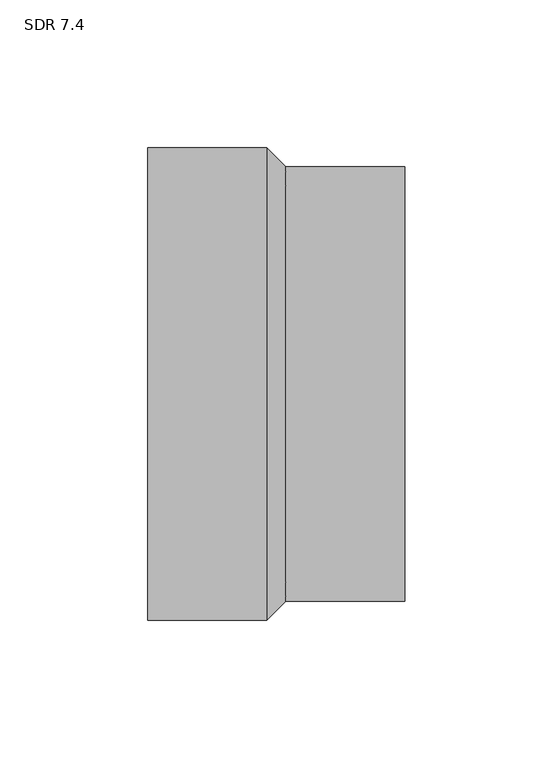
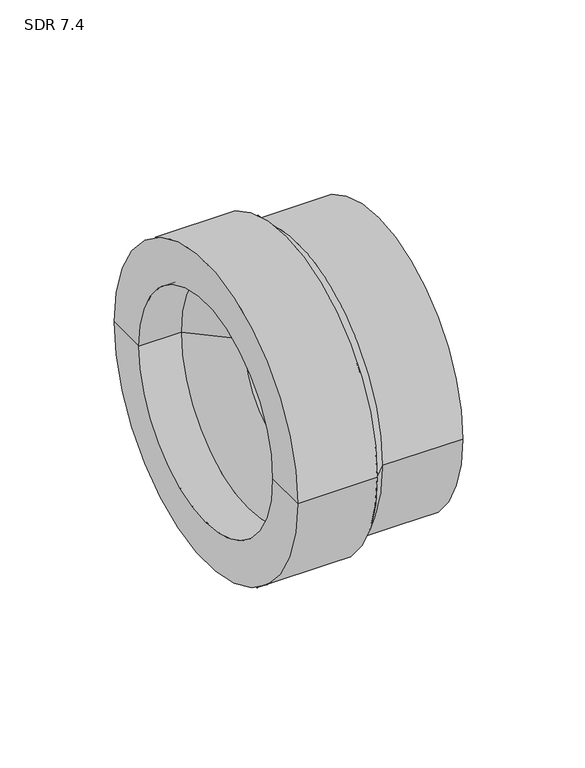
"""IFC4 building model written with IfcOpenShell, lengths in millimetres: pipe fitting geometry, Aquatherm - Reducing Coupling Butt Weld to Socket : SDR 7.4."""

from ifc_helpers import new_model, si_unit, frame, origin, place, context, project, spatial, polyline, circle_curve, source, transform, mapped, element, save
from ifc_brep_helpers import plane_surface, cylinder_surface, revolved_surface, advanced_brep


def sdr_7_4_60daefe8(model_context):
    return source(origin(), model_context, "Body", "AdvancedBrep", [
        advanced_brep(
        [(1.8415, -73.533, 0.0), (1.8415, 73.533, 0.0), (42.164, 73.533, 0.0), (42.164, -73.533, 0.0), (42.164, 54.991, 0.0), (42.164, -54.991, 0.0), (-23.749, -58.547, 0.0), (-23.749, 58.547, 0.0), (-44.958, 58.547, 0.0), (-44.958, -58.547, 0.0), (-44.958, 80.01, 0.0), (-44.958, -80.01, 0.0), (5.08, 54.991, 0.0), (5.08, -54.991, 0.0), (5.08, 40.132, 0.0), (5.08, -40.132, 0.0), (-2.54, 40.132, 0.0), (-2.54, -40.132, 0.0), (-4.6355, 80.01, 0.0), (-4.6355, -80.01, 0.0)],
        [
            (0, 1, circle_curve(frame((1.8415, 0.0, 0.0), z_axis=(1.0, 0.0, 0.0), x_axis=(0.0, 1.0, 0.0)), 73.533)),
            (1, 2),
            (2, 3, circle_curve(frame((42.164, 0.0, 0.0), z_axis=(-1.0, 0.0, 0.0), x_axis=(0.0, 1.0, 0.0)), 73.533)),
            (3, 0),
            (1, 0, circle_curve(frame((1.8415, 0.0, 0.0), z_axis=(1.0, 0.0, 0.0), x_axis=(0.0, 1.0, 0.0)), 73.533)),
            (3, 2, circle_curve(frame((42.164, 0.0, 0.0), z_axis=(-1.0, 0.0, 0.0), x_axis=(0.0, 1.0, 0.0)), 73.533)),
            (2, 4),
            (4, 5, circle_curve(frame((42.164, 0.0, 0.0), z_axis=(-1.0, 0.0, 0.0), x_axis=(0.0, 1.0, 0.0)), 54.991)),
            (5, 3),
            (5, 4, circle_curve(frame((42.164, 0.0, 0.0), z_axis=(-1.0, 0.0, 0.0), x_axis=(0.0, 1.0, 0.0)), 54.991)),
            (6, 7, circle_curve(frame((-23.749, 0.0, 0.0), z_axis=(1.0, 0.0, 0.0), x_axis=(0.0, 1.0, 0.0)), 58.547)),
            (7, 8),
            (8, 9, circle_curve(frame((-44.958, 0.0, 0.0), z_axis=(-1.0, 0.0, 0.0), x_axis=(0.0, 1.0, 0.0)), 58.547)),
            (9, 6),
            (7, 6, circle_curve(frame((-23.749, 0.0, 0.0), z_axis=(1.0, 0.0, 0.0), x_axis=(0.0, 1.0, 0.0)), 58.547)),
            (9, 8, circle_curve(frame((-44.958, 0.0, 0.0), z_axis=(-1.0, 0.0, 0.0), x_axis=(0.0, 1.0, 0.0)), 58.547)),
            (8, 10),
            (10, 11, circle_curve(frame((-44.958, 0.0, 0.0), z_axis=(-1.0, 0.0, 0.0), x_axis=(0.0, 1.0, 0.0)), 80.01)),
            (11, 9),
            (11, 10, circle_curve(frame((-44.958, 0.0, 0.0), z_axis=(-1.0, 0.0, 0.0), x_axis=(0.0, 1.0, 0.0)), 80.01)),
            (4, 12),
            (12, 13, circle_curve(frame((5.08, 0.0, 0.0), z_axis=(-1.0, 0.0, 0.0), x_axis=(0.0, 1.0, 0.0)), 54.991)),
            (13, 5),
            (13, 12, circle_curve(frame((5.08, 0.0, 0.0), z_axis=(-1.0, 0.0, 0.0), x_axis=(0.0, 1.0, 0.0)), 54.991)),
            (12, 14),
            (14, 15, circle_curve(frame((5.08, 0.0, 0.0), z_axis=(-1.0, 0.0, 0.0), x_axis=(0.0, 1.0, 0.0)), 40.132)),
            (15, 13),
            (15, 14, circle_curve(frame((5.08, 0.0, 0.0), z_axis=(-1.0, 0.0, 0.0), x_axis=(0.0, 1.0, 0.0)), 40.132)),
            (14, 16),
            (16, 17, circle_curve(frame((-2.54, 0.0, 0.0), z_axis=(-1.0, 0.0, 0.0), x_axis=(0.0, 1.0, 0.0)), 40.132)),
            (17, 15),
            (17, 16, circle_curve(frame((-2.54, 0.0, 0.0), z_axis=(-1.0, 0.0, 0.0), x_axis=(0.0, 1.0, 0.0)), 40.132)),
            (10, 18),
            (18, 19, circle_curve(frame((-4.6355, 0.0, 0.0), z_axis=(-1.0, 0.0, 0.0), x_axis=(0.0, 1.0, 0.0)), 80.01)),
            (19, 11),
            (19, 18, circle_curve(frame((-4.6355, 0.0, 0.0), z_axis=(-1.0, 0.0, 0.0), x_axis=(0.0, 1.0, 0.0)), 80.01)),
            (16, 7),
            (6, 17),
            (18, 1),
            (0, 19),
        ],
        [
            cylinder_surface(frame((-77.0252293, 0.0, 0.0), z_axis=(-1.0, 0.0, 0.0), x_axis=(0.0, 1.0, 0.0)), 73.533),
            plane_surface(frame((42.164, 0.0, 0.0), z_axis=(1.0, 0.0, 0.0), x_axis=(0.0, 1.0, 0.0))),
            revolved_surface(polyline([(-44.958, 58.547, 0.0), (-23.748999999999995, 58.547, 0.0)]), (-77.0252293, 0.0, 0.0), (-1.0, 0.0, 0.0)),
            plane_surface(frame((-44.958, 0.0, 0.0), z_axis=(-1.0, 0.0, 0.0), x_axis=(0.0, 1.0, 0.0))),
            revolved_surface(polyline([(5.079999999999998, 54.991, 0.0), (42.164, 54.991, 0.0)]), (-77.0252293, 0.0, 0.0), (-1.0, 0.0, 0.0)),
            plane_surface(frame((5.08, 0.0, 0.0), z_axis=(1.0, 0.0, 0.0), x_axis=(0.0, 1.0, 0.0))),
            revolved_surface(polyline([(-2.5400000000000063, 40.132, 0.0), (5.079999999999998, 40.132, 0.0)]), (-77.0252293, 0.0, 0.0), (-1.0, 0.0, 0.0)),
            cylinder_surface(frame((-77.0252293, 0.0, 0.0), z_axis=(-1.0, 0.0, 0.0), x_axis=(0.0, 1.0, 0.0)), 80.01),
            revolved_surface(polyline([(-23.749, 58.547, 0.0), (-2.54, 40.132, 0.0)]), (-77.0252293, 0.0, 0.0), (-1.0, 0.0, 0.0)),
            revolved_surface(polyline([(1.8415, 73.533, 0.0), (-4.6355, 80.01, 0.0)]), (-77.0252293, 0.0, 0.0), (-1.0, 0.0, 0.0)),
        ],
        [
            (0, [[1, 2, 3, 4]]),
            (0, [[5, -4, 6, -2]]),
            (1, [[-3, 7, 8, 9]]),
            (1, [[-6, -9, 10, -7]]),
            (2, [[11, 12, 13, 14]]),
            (2, [[15, -14, 16, -12]]),
            (3, [[-13, 17, 18, 19]]),
            (3, [[-16, -19, 20, -17]]),
            (4, [[-8, 21, 22, 23]]),
            (4, [[-10, -23, 24, -21]]),
            (5, [[-22, 25, 26, 27]]),
            (5, [[-24, -27, 28, -25]]),
            (6, [[-26, 29, 30, 31]]),
            (6, [[-28, -31, 32, -29]]),
            (7, [[-18, 33, 34, 35]]),
            (7, [[-20, -35, 36, -33]]),
            (8, [[-30, 37, -11, 38]]),
            (8, [[-32, -38, -15, -37]]),
            (9, [[-34, 39, -1, 40]]),
            (9, [[-36, -40, -5, -39]]),
        ],
    ),
    ])


if __name__ == "__main__":
    model = new_model("IFC4")
    model_context = context("Model", 3, world=origin())
    ifc_project = project(units=[si_unit("LENGTHUNIT", "METRE", prefix="MILLI")], contexts=[model_context])
    site = spatial("IfcSite", under=ifc_project)
    building = spatial("IfcBuilding", under=site)
    placement = place(None, origin())
    sdr_7_4_shape = sdr_7_4_60daefe8(model_context)
    element("IfcPipeFitting", 1, ObjectType="Aquatherm - Reducing Coupling Butt Weld to Socket : SDR 7.4", at=placement, inside=building, context=model_context, shape_type="MappedRepresentation", body=[
        mapped(sdr_7_4_shape, transform((0.0, 0.0, 0.0), x_axis=(1.0, 0.0, 0.0), y_axis=(0.0, 1.0, 0.0), z_axis=(0.0, 0.0, 1.0))),
    ])
    save(model, "model.ifc")
